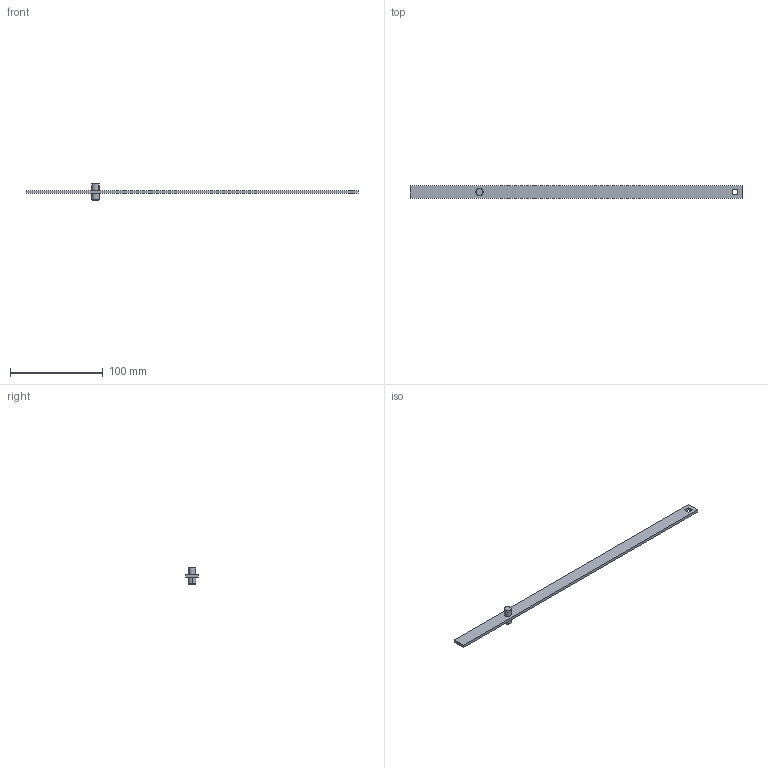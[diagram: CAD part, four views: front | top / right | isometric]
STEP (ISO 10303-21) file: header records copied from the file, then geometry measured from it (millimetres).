
FILE_DESCRIPTION (( 'STEP AP214' ), '1' );
FILE_NAME ('PK18-351.STEP', '2016-08-18T09:50:55', ( 'RST-Dolba' ), ( '' ), 'SwSTEP 2.0', 'SolidWorks 2015', '' );
FILE_SCHEMA (( 'AUTOMOTIVE_DESIGN' ));
Length unit declared in the file: millimetre
Products named in the file (4): 1C.PDB.02.02.00_A; 1C.PDB.02.01.00_A; 1C.PD.B.Z.X.Y.01_PK18-351; PK18-351
Assembly tree (3 placements, depth 2):
  PK18-351
    1C.PD.B.Z.X.Y.01_PK18-351
    1C.PDB.02.01.00_A
    1C.PDB.02.02.00_A
Bounding box: 358.5 x 14 x 18.1 mm (x, y, z)
Volume: 15691.5 mm3; surface area: 13056.7 mm2
Topology: 3 solids, 3 shells, 42 faces, 90 edges, 55 vertices
Faces by surface type: plane 16, cylinder 14, cone 12
Entity records: 1288 total; most frequent: DIRECTION 222, CARTESIAN_POINT 191, ORIENTED_EDGE 176, EDGE_CURVE 88, AXIS2_PLACEMENT_3D 86, VERTEX_POINT 55, EDGE_LOOP 51, LINE 50
